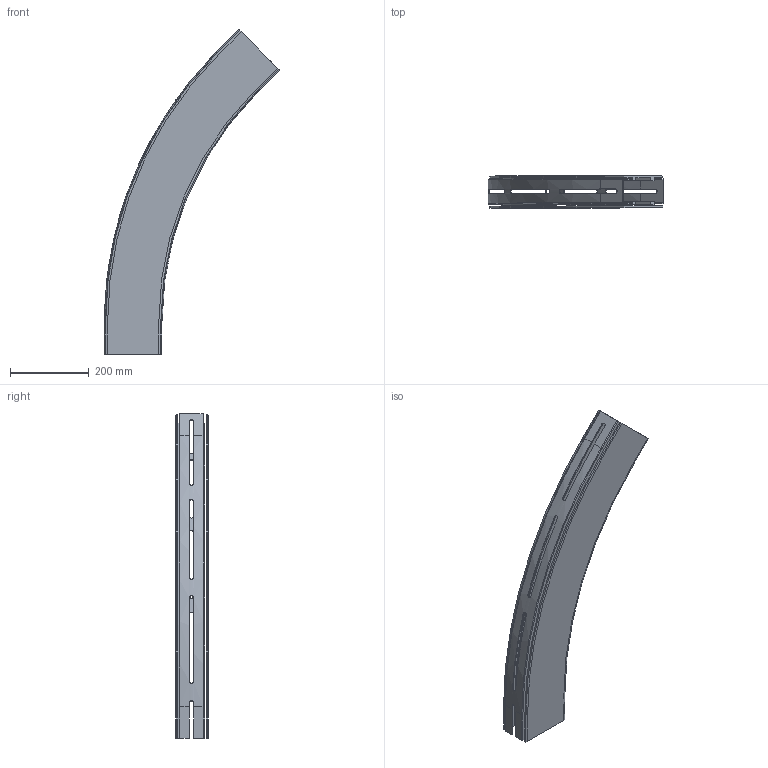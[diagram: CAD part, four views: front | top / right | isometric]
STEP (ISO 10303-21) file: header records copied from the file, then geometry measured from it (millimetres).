
FILE_DESCRIPTION(/* description */ ('GLIDKURVA SERIE 540'),/* implementation_level */ '2;1');
FILE_NAME(/* name */ '540-5375+140-2000-01.stp',/* time_stamp */ '2022-09-21T09:53:17+02:00',/* author */ ('Mathias.Dore'),/* organization */ ('CARRYLINE'),/* preprocessor_version */ 'ST-DEVELOPER v19.2',/* originating_system */ 'Autodesk Inventor 2023',/* authorisation */ '');
FILE_SCHEMA (('AUTOMOTIVE_DESIGN { 1 0 10303 214 3 1 1 }'));
Length unit declared in the file: millimetre
Products named in the file (1): 540-5375+140-2000-01
Bounding box: 444.79 x 82 x 824.58 mm (x, y, z)
Volume: 1957524.8 mm3; surface area: 1007921.6 mm2
Topology: 2 solids, 2 shells, 179 faces, 506 edges, 332 vertices
Faces by surface type: plane 115, cylinder 30, bspline 26, cone 4, torus 4
Entity records: 6573 total; most frequent: CARTESIAN_POINT 1896, ORIENTED_EDGE 1012, DIRECTION 862, EDGE_CURVE 506, LINE 354, VECTOR 354, VERTEX_POINT 332, AXIS2_PLACEMENT_3D 254
